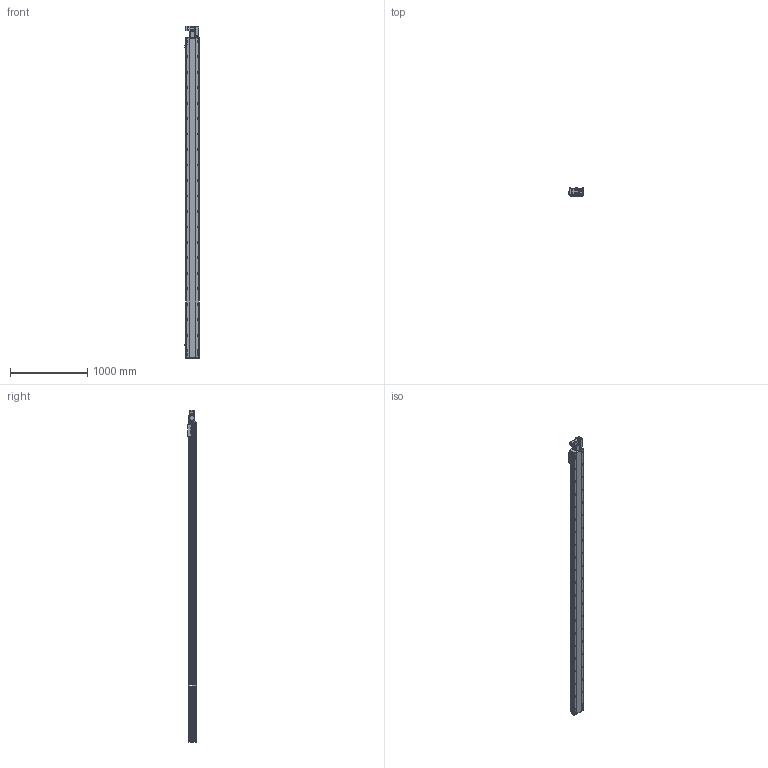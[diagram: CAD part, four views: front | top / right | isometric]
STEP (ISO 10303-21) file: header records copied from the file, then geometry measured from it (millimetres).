
FILE_DESCRIPTION (( 'STEP AP214' ), '1' );
FILE_NAME ('RTB17S-XX-3850-R-M40-C4.STEP', '2025-12-11T08:03:52', ( '' ), ( '' ), 'SwSTEP 2.0', 'SolidWorks 2018', '' );
FILE_SCHEMA (( 'AUTOMOTIVE_DESIGN' ));
Length unit declared in the file: millimetre
Products named in the file (14): RTB17S-L-014-T20--々湍釱^RTB17S-R-々湍釱蚾饜-400W_RTB17S-XX-XX-R-M40-C4; 400W侜督萇儂^RTB17S-XX-XX-R-M40-C4; RTB17S-XX-3850-R-M40-C4; RTB17S-L-004佪裝蹟譫蟀諉釱^RTB17S-XX-XX-R-M40-C4; RTB17S-L-001耜醱啣^RTB17S-XX-XX-R-M40-C4; RTB14-L-005P--轴承塑胶压盖^RTB17S-R-皮带座装配-400W_RTB17S-XX-XX-R-M40-C4; RTB17S-R-々湍釱蚾饜-400W^RTB17S-XX-XX-R-M40-C4; RTB14-L-017P^RTB17S-R-々湍釱蚾饜-400W_RTB17S-XX-XX-R-M40-C4; RTB17S-L-007奻裔^RTB17S-XX-XX-R-M40-C4; RTH13-BL-012覜茼え俋离^RTB17S-XX-XX-R-M40-C4; OMRON EE-SX672 传感器^RTB17S-XX-XX-R-M40-C4; RTB14-L-008-M20--萇儂啣^RTB17S-R-々湍釱蚾饜-400W_RTB17S-XX-XX-R-M40-C4; RTB17-R-011菁釱^RTB17S-XX-XX-R-M40-C4; RTB14-L-018P^RTB17S-R-々湍釱蚾饜-400W_RTB17S-XX-XX-R-M40-C4
Assembly tree (16 placements, depth 3):
  RTB17S-XX-3850-R-M40-C4
    RTB17-R-011菁釱^RTB17S-XX-XX-R-M40-C4
    RTB17S-L-007奻裔^RTB17S-XX-XX-R-M40-C4
    OMRON EE-SX672 传感器^RTB17S-XX-XX-R-M40-C4  x3
    RTB17S-L-001耜醱啣^RTB17S-XX-XX-R-M40-C4
    400W侜督萇儂^RTB17S-XX-XX-R-M40-C4
    RTB17S-L-004佪裝蹟譫蟀諉釱^RTB17S-XX-XX-R-M40-C4
    RTH13-BL-012覜茼え俋离^RTB17S-XX-XX-R-M40-C4
    RTB17S-R-々湍釱蚾饜-400W^RTB17S-XX-XX-R-M40-C4
      RTB17S-L-014-T20--々湍釱^RTB17S-R-々湍釱蚾饜-400W_RTB17S-XX-XX-R-M40-C4
      RTB14-L-005P--轴承塑胶压盖^RTB17S-R-皮带座装配-400W_RTB17S-XX-XX-R-M40-C4
      RTB14-L-008-M20--萇儂啣^RTB17S-R-々湍釱蚾饜-400W_RTB17S-XX-XX-R-M40-C4
      RTB14-L-017P^RTB17S-R-々湍釱蚾饜-400W_RTB17S-XX-XX-R-M40-C4  x2
      RTB14-L-018P^RTB17S-R-々湍釱蚾饜-400W_RTB17S-XX-XX-R-M40-C4
Bounding box: 183.5 x 108 x 4291 mm (x, y, z)
Volume: 35610601.2 mm3; surface area: 4034343.9 mm2
Topology: 15 solids, 15 shells, 2445 faces, 6897 edges, 4509 vertices
Faces by surface type: plane 1098, cylinder 899, bspline 301, cone 139, torus 8
Entity records: 74153 total; most frequent: CARTESIAN_POINT 21302, ORIENTED_EDGE 10638, DIRECTION 9746, EDGE_CURVE 5319, VERTEX_POINT 3497, AXIS2_PLACEMENT_3D 3427, LINE 2892, VECTOR 2892
